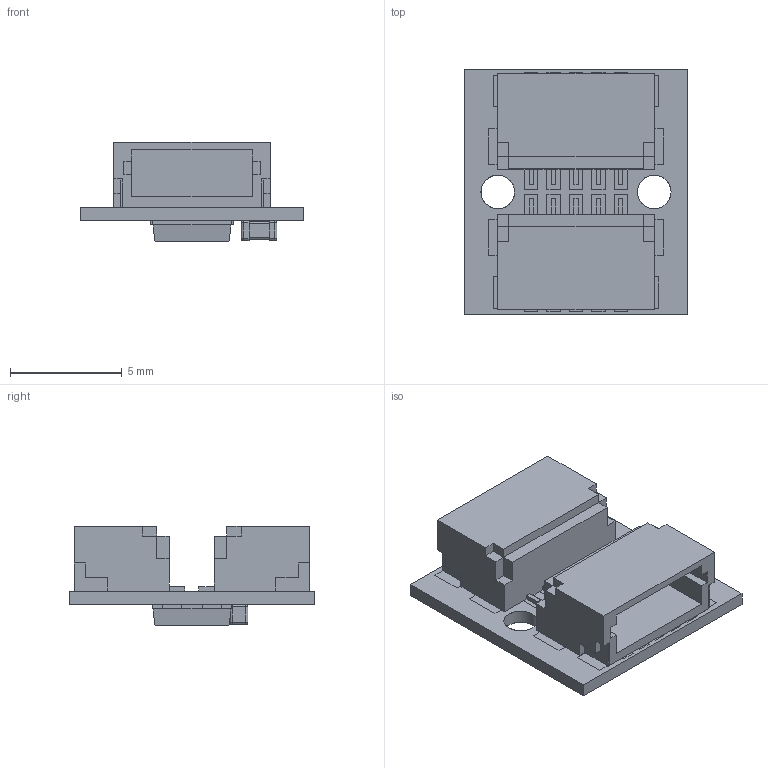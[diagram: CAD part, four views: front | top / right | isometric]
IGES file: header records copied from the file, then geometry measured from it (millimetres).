
Global section: file name: Filename.iges; native system: Open CASCADE 7.4; preprocessor: Open CASCADE IGES processor 7.4; date: 20200729.111811; units: millimetre
Bounding box: 10 x 11 x 4.45 mm (x, y, z)
Surface area: 1348.4 mm2 (no closed solid volume)
Topology: 0 solids, 0 shells, 672 faces, 3432 edges, 4304 vertices
Faces by surface type: plane 596, revolution 68, bspline 8
